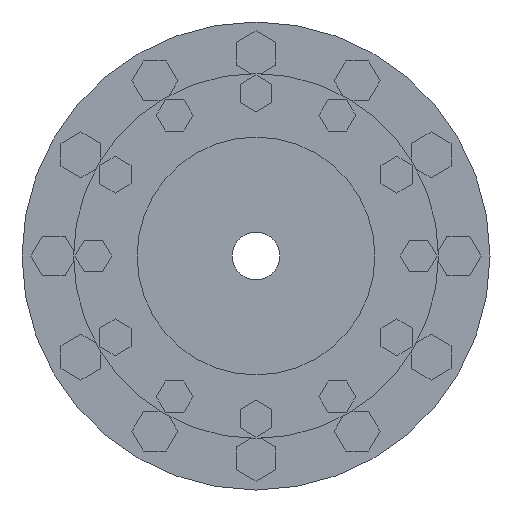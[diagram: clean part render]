
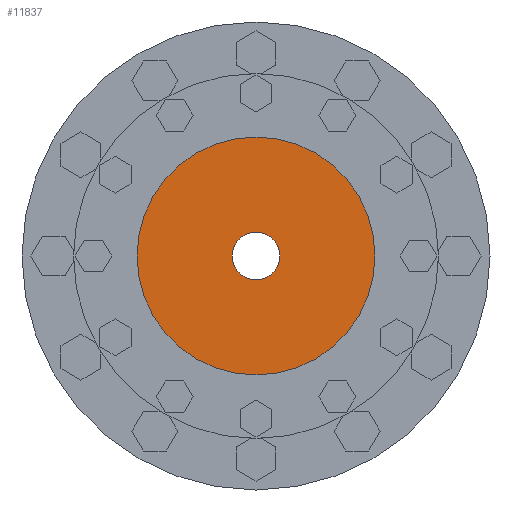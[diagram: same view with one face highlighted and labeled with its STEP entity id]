
A CAD part, left-side view. The second image highlights one B-rep face of the part: STEP entity #11837.
In plain terms, the highlighted planar face has unit normal (-1, 0, 0) as drawn and (1, 0, 0) by its records, which use the part's own axes.
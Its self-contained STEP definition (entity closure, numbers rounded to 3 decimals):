
#11661=CARTESIAN_POINT('',(-2.5,0.,0.));
#11662=DIRECTION('',(1.,0.,0.));
#11663=DIRECTION('',(0.,1.,0.));
#11664=AXIS2_PLACEMENT_3D('',#11661,#11662,#11663);
#11671=CARTESIAN_POINT('',(-2.5,0.,0.));
#11672=DIRECTION('',(-1.,0.,0.));
#11673=DIRECTION('',(0.,1.,0.));
#11674=AXIS2_PLACEMENT_3D('',#11671,#11672,#11673);
#11676=CARTESIAN_POINT('',(-2.5,0.,0.));
#11677=DIRECTION('',(1.,0.,0.));
#11678=DIRECTION('',(0.,1.,0.));
#11679=AXIS2_PLACEMENT_3D('',#11676,#11677,#11678);
#11755=CARTESIAN_POINT('',(-2.5,0.,0.));
#11756=DIRECTION('',(1.,0.,0.));
#11757=DIRECTION('',(0.,-1.,0.));
#11758=AXIS2_PLACEMENT_3D('',#11755,#11756,#11757);
#11782=CARTESIAN_POINT('',(-2.5,30.,0.));
#11784=VERTEX_POINT('',#11782);
#11786=CARTESIAN_POINT('',(-2.5,-30.,0.));
#11788=VERTEX_POINT('',#11786);
#11793=CARTESIAN_POINT('',(-2.5,6.,0.));
#11794=CARTESIAN_POINT('',(-2.5,-6.,0.));
#11795=VERTEX_POINT('',#11793);
#11796=VERTEX_POINT('',#11794);
#11821=CARTESIAN_POINT('',(-2.5,0.,0.));
#11822=DIRECTION('',(1.,0.,0.));
#11823=DIRECTION('',(0.,-1.,0.));
#11824=AXIS2_PLACEMENT_3D('',#11821,#11822,#11823);
#11825=PLANE('',#11824);
#11827=ORIENTED_EDGE('',*,*,#11826,.T.);
#11829=ORIENTED_EDGE('',*,*,#11828,.F.);
#11830=EDGE_LOOP('',(#11827,#11829));
#11831=FACE_OUTER_BOUND('',#11830,.F.);
#11832=ORIENTED_EDGE('',*,*,#11810,.T.);
#11834=ORIENTED_EDGE('',*,*,#11833,.T.);
#11835=EDGE_LOOP('',(#11832,#11834));
#11836=FACE_BOUND('',#11835,.F.);
#11837=ADVANCED_FACE('',(#11831,#11836),#11825,.T.);
#11665=CIRCLE('',#11664,6.);
#11675=CIRCLE('',#11674,30.);
#11680=CIRCLE('',#11679,30.);
#11759=CIRCLE('',#11758,6.);
#11810=EDGE_CURVE('',#11795,#11796,#11665,.T.);
#11826=EDGE_CURVE('',#11784,#11788,#11675,.T.);
#11828=EDGE_CURVE('',#11784,#11788,#11680,.T.);
#11833=EDGE_CURVE('',#11796,#11795,#11759,.T.);
